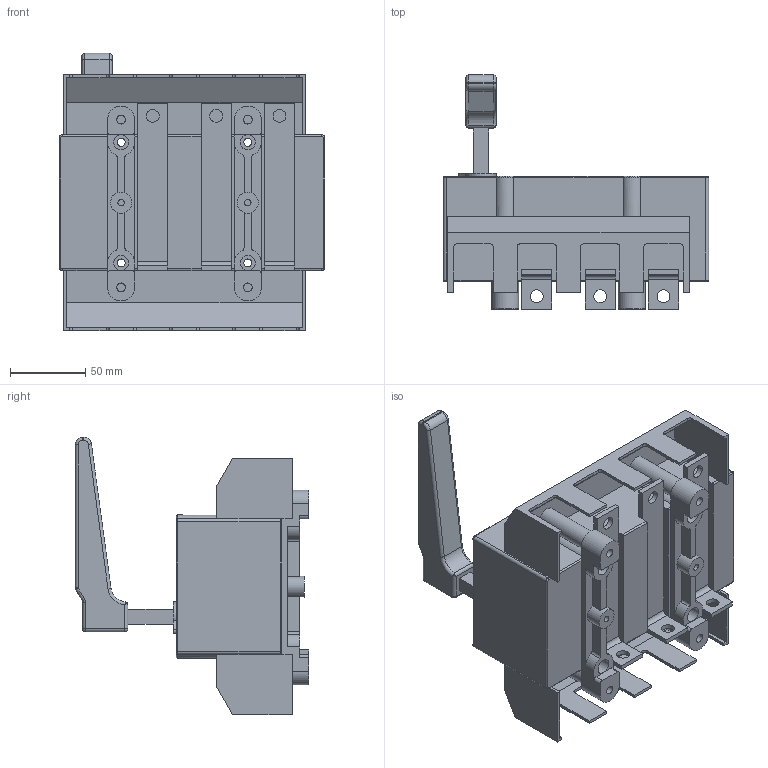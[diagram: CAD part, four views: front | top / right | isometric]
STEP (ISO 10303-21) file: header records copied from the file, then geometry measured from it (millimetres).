
FILE_DESCRIPTION(/* description */ (''),/* implementation_level */ '2;1');
FILE_NAME(/* name */ 'RA250 P3 B-R z oslona zaciskow.stp',/* time_stamp */ '2021-08-18T08:07:05+02:00',/* author */ (''),/* organization */ (''),/* preprocessor_version */ 'ST-DEVELOPER v18.1',/* originating_system */ 'SIEMENS PLM Software NX 1965',/* authorisation */ '');
FILE_SCHEMA (('AUTOMOTIVE_DESIGN { 1 0 10303 214 3 1 1 1 }'));
Length unit declared in the file: millimetre
Products named in the file (1): RA250 P3 B-R z oslona zaciskow
Bounding box: 176 x 155 x 183.9 mm (x, y, z)
Volume: 1261421.8 mm3; surface area: 167026.8 mm2
Topology: 1 solids, 1 shells, 345 faces, 967 edges, 625 vertices
Faces by surface type: plane 174, cylinder 145, torus 12, bspline 8, sphere 6
Full cylindrical faces by diameter (mm): 4.3 x2, 5.3 x4, 5.8 x4, 8.5 x6, 10 x12, 13 x4, 14 x2
Entity records: 11183 total; most frequent: CARTESIAN_POINT 2266, DIRECTION 1880, ORIENTED_EDGE 1808, EDGE_CURVE 904, AXIS2_PLACEMENT_3D 660, VERTEX_POINT 594, LINE 560, VECTOR 560
